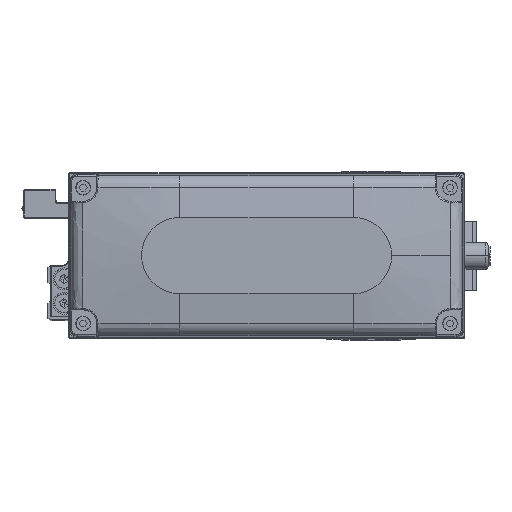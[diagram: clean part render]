
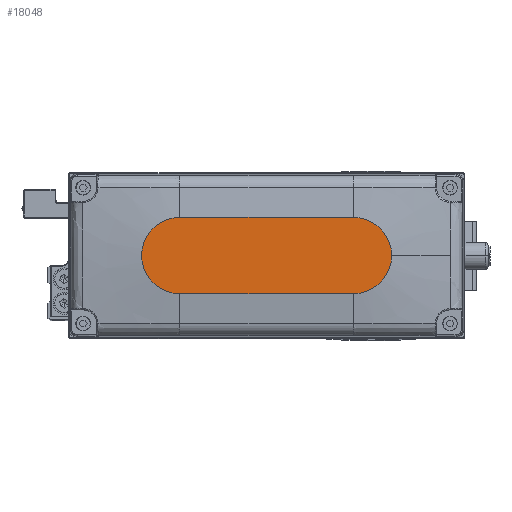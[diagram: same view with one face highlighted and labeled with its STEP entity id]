
A CAD part, top view. The second image highlights one B-rep face of the part: STEP entity #18048.
In plain terms, the highlighted planar face has unit normal (0, 0, 1).
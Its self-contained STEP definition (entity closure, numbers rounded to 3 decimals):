
#226 = VERTEX_POINT ( 'NONE', #41936 ) ;
#2542 = DIRECTION ( 'NONE',  ( 0., 0., 1. ) ) ;
#3648 = CIRCLE ( 'NONE', #28293, 14. ) ;
#4089 = ORIENTED_EDGE ( 'NONE', *, *, #7667, .T. ) ;
#6402 = DIRECTION ( 'NONE',  ( 0., 0., 1. ) ) ;
#7667 = EDGE_CURVE ( 'NONE', #226, #21664, #10301, .T. ) ;
#8229 = LINE ( 'NONE', #21668, #36016 ) ;
#8302 = CARTESIAN_POINT ( 'NONE',  ( 32., -14., 35. ) ) ;
#8985 = DIRECTION ( 'NONE',  ( 1., 0., 0. ) ) ;
#9421 = EDGE_CURVE ( 'NONE', #32550, #34132, #41804, .T. ) ;
#9539 = ORIENTED_EDGE ( 'NONE', *, *, #9421, .T. ) ;
#9701 = FACE_OUTER_BOUND ( 'NONE', #23121, .T. ) ;
#10288 = AXIS2_PLACEMENT_3D ( 'NONE', #36562, #6402, #19845 ) ;
#10301 = LINE ( 'NONE', #23738, #42552 ) ;
#10414 = DIRECTION ( 'NONE',  ( 0., 0., 1. ) ) ;
#15980 = DIRECTION ( 'NONE',  ( 1., 0., 0. ) ) ;
#16102 = ORIENTED_EDGE ( 'NONE', *, *, #25277, .T. ) ;
#16240 = AXIS2_PLACEMENT_3D ( 'NONE', #25735, #39161, #8985 ) ;
#17442 = CARTESIAN_POINT ( 'NONE',  ( 32., 14., 35. ) ) ;
#18048 = ADVANCED_FACE ( 'NONE', ( #9701 ), #23135, .T. ) ;
#19845 = DIRECTION ( 'NONE',  ( 1., 0., 0. ) ) ;
#21664 = VERTEX_POINT ( 'NONE', #8302 ) ;
#21668 = CARTESIAN_POINT ( 'NONE',  ( -32., 14., 35. ) ) ;
#22805 = AXIS2_PLACEMENT_3D ( 'NONE', #40591, #10414, #23851 ) ;
#23121 = EDGE_LOOP ( 'NONE', ( #41179, #16102, #4089, #28173, #9539 ) ) ;
#23135 = PLANE ( 'NONE',  #10288 ) ;
#23650 = CARTESIAN_POINT ( 'NONE',  ( -32., 14., 35. ) ) ;
#23738 = CARTESIAN_POINT ( 'NONE',  ( -32., -14., 35. ) ) ;
#23851 = DIRECTION ( 'NONE',  ( 1., 0., 0. ) ) ;
#25277 = EDGE_CURVE ( 'NONE', #38989, #226, #35242, .T. ) ;
#25735 = CARTESIAN_POINT ( 'NONE',  ( -32., 0., 35. ) ) ;
#28173 = ORIENTED_EDGE ( 'NONE', *, *, #32543, .T. ) ;
#28293 = AXIS2_PLACEMENT_3D ( 'NONE', #32737, #2542, #15980 ) ;
#29426 = CARTESIAN_POINT ( 'NONE',  ( 46., 0., 35. ) ) ;
#32543 = EDGE_CURVE ( 'NONE', #21664, #32550, #3648, .T. ) ;
#32550 = VERTEX_POINT ( 'NONE', #29426 ) ;
#32737 = CARTESIAN_POINT ( 'NONE',  ( 32., 0., 35. ) ) ;
#34132 = VERTEX_POINT ( 'NONE', #17442 ) ;
#35099 = DIRECTION ( 'NONE',  ( -1., 0., 0. ) ) ;
#35242 = CIRCLE ( 'NONE', #16240, 14. ) ;
#36016 = VECTOR ( 'NONE', #35099, 1000. ) ;
#36562 = CARTESIAN_POINT ( 'NONE',  ( 0., 0., 35. ) ) ;
#37169 = DIRECTION ( 'NONE',  ( 1., 0., 0. ) ) ;
#38989 = VERTEX_POINT ( 'NONE', #23650 ) ;
#39130 = EDGE_CURVE ( 'NONE', #34132, #38989, #8229, .T. ) ;
#39161 = DIRECTION ( 'NONE',  ( 0., 0., 1. ) ) ;
#40591 = CARTESIAN_POINT ( 'NONE',  ( 32., 0., 35. ) ) ;
#41179 = ORIENTED_EDGE ( 'NONE', *, *, #39130, .T. ) ;
#41804 = CIRCLE ( 'NONE', #22805, 14. ) ;
#41936 = CARTESIAN_POINT ( 'NONE',  ( -32., -14., 35. ) ) ;
#42552 = VECTOR ( 'NONE', #37169, 1000. ) ;
